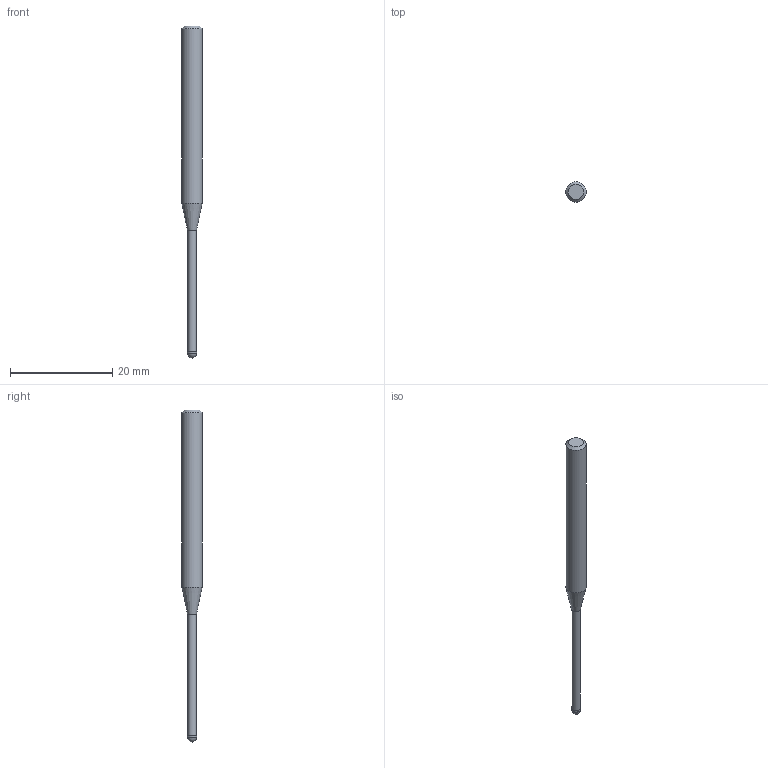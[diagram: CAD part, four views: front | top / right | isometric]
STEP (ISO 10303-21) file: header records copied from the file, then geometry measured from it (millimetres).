
FILE_DESCRIPTION((''),'2;1');
FILE_NAME('C:\Users\nsx150\AppData\Local\Temp\Mastercam 2021\ARV7HD45SN\TEMP.step','2023-06-13T16:37:10',(''),(''),'STEP Write','Mastercam 2021 ... CNC Software, Inc.','');
FILE_SCHEMA(('AUTOMOTIVE_DESIGN'));
Length unit declared in the file: millimetre
Products named in the file (1): None
Bounding box: 4 x 4 x 65 mm (x, y, z)
Volume: 529.5 mm3; surface area: 635.2 mm2
Topology: 2 solids, 2 shells, 9 faces, 14 edges, 8 vertices
Faces by surface type: plane 3, cylinder 3, cone 2, sphere 1
Full cylindrical faces by diameter (mm): 1.74 x1, 1.8 x1, 4 x1
Entity records: 211 total; most frequent: DIRECTION 36, CARTESIAN_POINT 25, AXIS2_PLACEMENT_3D 18, ORIENTED_EDGE 14, EDGE_LOOP 14, STYLED_ITEM 12, ADVANCED_FACE 9, FACE_BOUND 8
